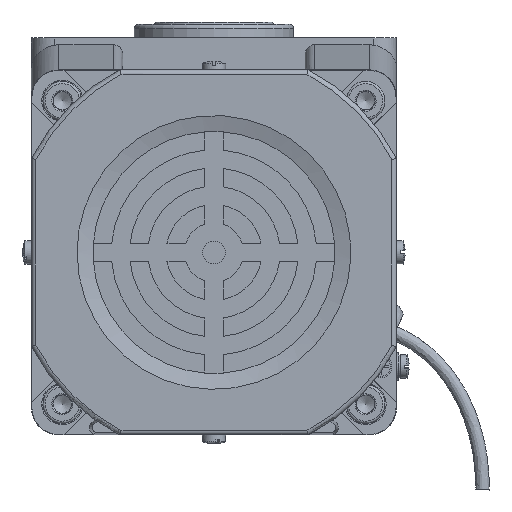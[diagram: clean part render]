
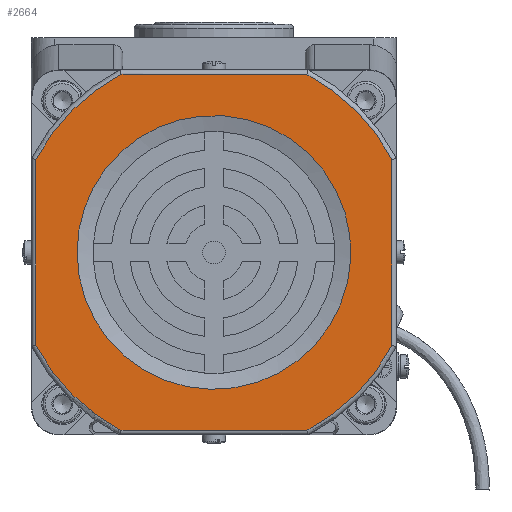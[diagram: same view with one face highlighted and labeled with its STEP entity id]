
A CAD part, left-side view. The second image highlights one B-rep face of the part: STEP entity #2664.
In plain terms, the highlighted planar face has unit normal (-1, 0, 0).
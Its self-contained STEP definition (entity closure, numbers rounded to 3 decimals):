
#2664=ADVANCED_FACE('',(#5997,#5998),#3772,.F.);
#3772=PLANE('',#18079);
#4231=LINE('',#24201,#5114);
#4232=LINE('',#24206,#5115);
#4233=LINE('',#24210,#5116);
#4234=LINE('',#24214,#5117);
#5114=VECTOR('',#19834,1.);
#5115=VECTOR('',#19837,1.);
#5116=VECTOR('',#19840,1.);
#5117=VECTOR('',#19843,1.);
#5997=FACE_BOUND('',#6511,.T.);
#5998=FACE_BOUND('',#6512,.T.);
#6511=EDGE_LOOP('',(#7905));
#6512=EDGE_LOOP('',(#7906,#7907,#7908,#7909,#7910,#7911,#7912,#7913));
#7905=ORIENTED_EDGE('',*,*,#14652,.T.);
#7906=ORIENTED_EDGE('',*,*,#14653,.T.);
#7907=ORIENTED_EDGE('',*,*,#14654,.T.);
#7908=ORIENTED_EDGE('',*,*,#14655,.T.);
#7909=ORIENTED_EDGE('',*,*,#14656,.T.);
#7910=ORIENTED_EDGE('',*,*,#14657,.T.);
#7911=ORIENTED_EDGE('',*,*,#14658,.T.);
#7912=ORIENTED_EDGE('',*,*,#14659,.T.);
#7913=ORIENTED_EDGE('',*,*,#14660,.T.);
#12987=VERTEX_POINT('',#24200);
#12988=VERTEX_POINT('',#24202);
#12989=VERTEX_POINT('',#24203);
#12990=VERTEX_POINT('',#24205);
#12991=VERTEX_POINT('',#24207);
#12992=VERTEX_POINT('',#24209);
#12993=VERTEX_POINT('',#24211);
#12994=VERTEX_POINT('',#24213);
#12995=VERTEX_POINT('',#24215);
#14652=EDGE_CURVE('',#12987,#12987,#17234,.T.);
#14653=EDGE_CURVE('',#12988,#12989,#4231,.T.);
#14654=EDGE_CURVE('',#12989,#12990,#17235,.T.);
#14655=EDGE_CURVE('',#12990,#12991,#4232,.T.);
#14656=EDGE_CURVE('',#12991,#12992,#17236,.T.);
#14657=EDGE_CURVE('',#12992,#12993,#4233,.T.);
#14658=EDGE_CURVE('',#12993,#12994,#17237,.T.);
#14659=EDGE_CURVE('',#12994,#12995,#4234,.T.);
#14660=EDGE_CURVE('',#12995,#12988,#17238,.T.);
#17234=CIRCLE('',#18074,30.);
#17235=CIRCLE('',#18075,44.);
#17236=CIRCLE('',#18076,44.);
#17237=CIRCLE('',#18077,44.);
#17238=CIRCLE('',#18078,44.);
#18074=AXIS2_PLACEMENT_3D('',#24199,#19832,#19833);
#18075=AXIS2_PLACEMENT_3D('',#24204,#19835,#19836);
#18076=AXIS2_PLACEMENT_3D('',#24208,#19838,#19839);
#18077=AXIS2_PLACEMENT_3D('',#24212,#19841,#19842);
#18078=AXIS2_PLACEMENT_3D('',#24216,#19844,#19845);
#18079=AXIS2_PLACEMENT_3D('',#24217,#19846,#19847);
#19832=DIRECTION('',(1.,0.,0.));
#19833=DIRECTION('',(0.,1.,0.));
#19834=DIRECTION('',(0.,1.,0.));
#19835=DIRECTION('',(-1.,0.,0.));
#19836=DIRECTION('',(0.,0.,-1.));
#19837=DIRECTION('',(0.,0.,-1.));
#19838=DIRECTION('',(-1.,0.,0.));
#19839=DIRECTION('',(0.,0.,-1.));
#19840=DIRECTION('',(0.,-1.,0.));
#19841=DIRECTION('',(-1.,0.,0.));
#19842=DIRECTION('',(0.,0.,-1.));
#19843=DIRECTION('',(0.,0.,1.));
#19844=DIRECTION('',(-1.,0.,0.));
#19845=DIRECTION('',(0.,0.,-1.));
#19846=DIRECTION('',(1.,0.,0.));
#19847=DIRECTION('',(0.,0.,-1.));
#24199=CARTESIAN_POINT('',(-102.,40.,40.));
#24200=CARTESIAN_POINT('',(-102.,70.,40.));
#24201=CARTESIAN_POINT('',(-102.,60.616,79.));
#24202=CARTESIAN_POINT('',(-102.,19.628,79.));
#24203=CARTESIAN_POINT('',(-102.,60.372,79.));
#24204=CARTESIAN_POINT('',(-102.,40.,40.));
#24205=CARTESIAN_POINT('',(-102.,79.,60.372));
#24206=CARTESIAN_POINT('',(-102.,79.,19.384));
#24207=CARTESIAN_POINT('',(-102.,79.,19.628));
#24208=CARTESIAN_POINT('',(-102.,40.,40.));
#24209=CARTESIAN_POINT('',(-102.,60.372,1.));
#24210=CARTESIAN_POINT('',(-102.,19.384,1.));
#24211=CARTESIAN_POINT('',(-102.,19.628,1.));
#24212=CARTESIAN_POINT('',(-102.,40.,40.));
#24213=CARTESIAN_POINT('',(-102.,1.,19.628));
#24214=CARTESIAN_POINT('',(-102.,1.,60.616));
#24215=CARTESIAN_POINT('',(-102.,1.,60.372));
#24216=CARTESIAN_POINT('',(-102.,40.,40.));
#24217=CARTESIAN_POINT('',(-102.,40.,40.));
